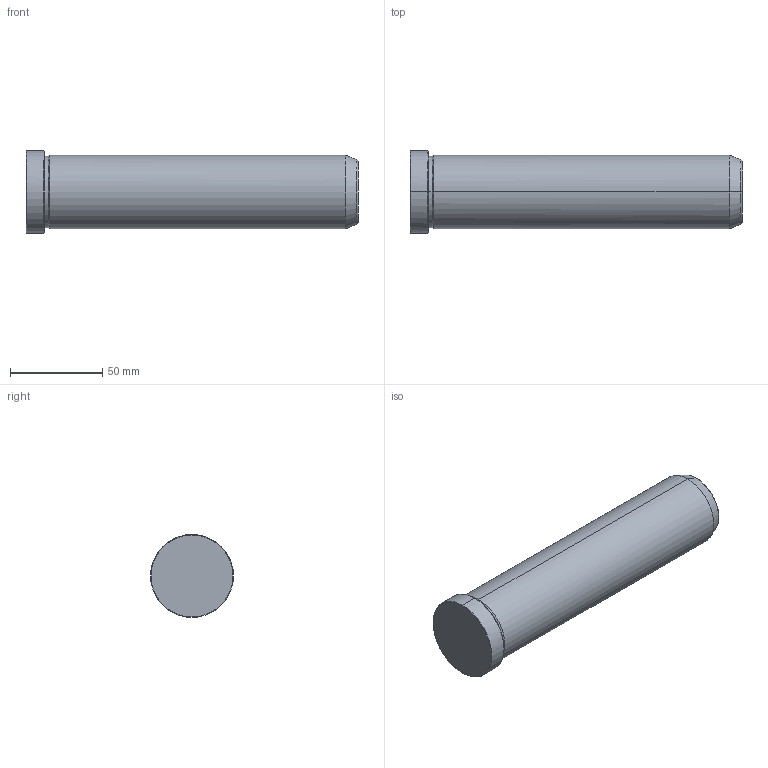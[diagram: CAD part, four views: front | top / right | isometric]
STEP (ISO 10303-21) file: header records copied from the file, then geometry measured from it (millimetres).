
FILE_DESCRIPTION(('CATIA V5 STEP Exchange'),'2;1');
FILE_NAME('C:\Users\Utente\Desktop\IO LAVORO\3D X SITO CF\X SITO\PLASTICA\549\549-40X180.stp','2021-12-18T08:15:14+00:00',('none'),('none'),'CATIA Version 5 Release 20 GA (IN-10)','CATIA V5 STEP AP203','none');
FILE_SCHEMA(('CONFIG_CONTROL_DESIGN'));
Length unit declared in the file: millimetre
Products named in the file (1): 549-40X180
Bounding box: 180 x 45 x 45 mm (x, y, z)
Volume: 228174.9 mm3; surface area: 25632.5 mm2
Topology: 1 solids, 1 shells, 19 faces, 56 edges, 40 vertices
Faces by surface type: cone 8, cylinder 6, plane 3, torus 2
Entity records: 736 total; most frequent: CARTESIAN_POINT 192, ORIENTED_EDGE 112, DIRECTION 86, EDGE_CURVE 56, AXIS2_PLACEMENT_3D 54, VERTEX_POINT 40, CIRCLE 34, EDGE_LOOP 20
